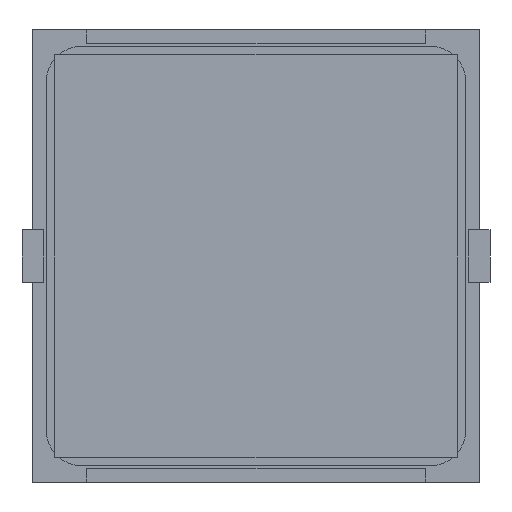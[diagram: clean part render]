
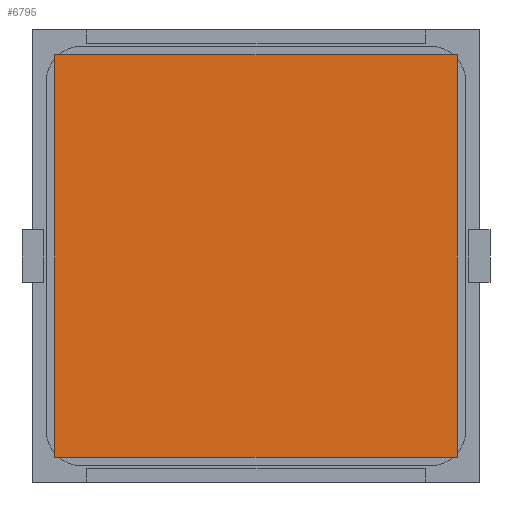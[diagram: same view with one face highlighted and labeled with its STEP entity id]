
A CAD part, front view. The second image highlights one B-rep face of the part: STEP entity #6795.
In plain terms, the highlighted planar face has unit normal (0, -1, 0).
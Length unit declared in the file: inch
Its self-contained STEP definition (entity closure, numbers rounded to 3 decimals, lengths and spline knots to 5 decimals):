
#35 = CARTESIAN_POINT ( 'NONE',  ( -0.74803, -0.005, -0.74803 ) ) ;
#114 = VERTEX_POINT ( 'NONE', #5337 ) ;
#654 = CARTESIAN_POINT ( 'NONE',  ( -0.74803, -0.005, 0.74803 ) ) ;
#656 = ORIENTED_EDGE ( 'NONE', *, *, #6941, .F. ) ;
#790 = EDGE_LOOP ( 'NONE', ( #2826, #7864, #3111, #656 ) ) ;
#1112 = EDGE_CURVE ( 'NONE', #9559, #4369, #6724, .T. ) ;
#1477 = VERTEX_POINT ( 'NONE', #4182 ) ;
#1480 = VECTOR ( 'NONE', #6433, 39.37008 ) ;
#2082 = CARTESIAN_POINT ( 'NONE',  ( -0.74803, -0.005, 0.74803 ) ) ;
#2326 = PLANE ( 'NONE',  #9077 ) ;
#2572 = VECTOR ( 'NONE', #8855, 39.37008 ) ;
#2611 = LINE ( 'NONE', #6321, #2572 ) ;
#2826 = ORIENTED_EDGE ( 'NONE', *, *, #7029, .F. ) ;
#3111 = ORIENTED_EDGE ( 'NONE', *, *, #9630, .F. ) ;
#4182 = CARTESIAN_POINT ( 'NONE',  ( -0.74803, -0.005, 0.74803 ) ) ;
#4369 = VERTEX_POINT ( 'NONE', #35 ) ;
#4638 = CARTESIAN_POINT ( 'NONE',  ( 0.74803, -0.005, -0.74803 ) ) ;
#5337 = CARTESIAN_POINT ( 'NONE',  ( 0.74803, -0.005, 0.74803 ) ) ;
#5683 = DIRECTION ( 'NONE',  ( 1., 0., 0. ) ) ;
#6321 = CARTESIAN_POINT ( 'NONE',  ( -0.74803, -0.005, -0.74803 ) ) ;
#6338 = VECTOR ( 'NONE', #5683, 39.37008 ) ;
#6433 = DIRECTION ( 'NONE',  ( 0., 0., -1. ) ) ;
#6724 = LINE ( 'NONE', #10442, #6924 ) ;
#6795 = ADVANCED_FACE ( 'NONE', ( #8624 ), #2326, .F. ) ;
#6924 = VECTOR ( 'NONE', #10686, 39.37008 ) ;
#6941 = EDGE_CURVE ( 'NONE', #1477, #114, #10237, .T. ) ;
#7029 = EDGE_CURVE ( 'NONE', #4369, #1477, #2611, .T. ) ;
#7864 = ORIENTED_EDGE ( 'NONE', *, *, #1112, .F. ) ;
#8110 = LINE ( 'NONE', #4638, #1480 ) ;
#8624 = FACE_OUTER_BOUND ( 'NONE', #790, .T. ) ;
#8855 = DIRECTION ( 'NONE',  ( 0., 0., 1. ) ) ;
#9077 = AXIS2_PLACEMENT_3D ( 'NONE', #654, #11449, #9655 ) ;
#9559 = VERTEX_POINT ( 'NONE', #10885 ) ;
#9630 = EDGE_CURVE ( 'NONE', #114, #9559, #8110, .T. ) ;
#9655 = DIRECTION ( 'NONE',  ( 0., 0., 1. ) ) ;
#10237 = LINE ( 'NONE', #2082, #6338 ) ;
#10442 = CARTESIAN_POINT ( 'NONE',  ( -0.74803, -0.005, -0.74803 ) ) ;
#10686 = DIRECTION ( 'NONE',  ( -1., 0., 0. ) ) ;
#10885 = CARTESIAN_POINT ( 'NONE',  ( 0.74803, -0.005, -0.74803 ) ) ;
#11449 = DIRECTION ( 'NONE',  ( 0., 1., 0. ) ) ;
